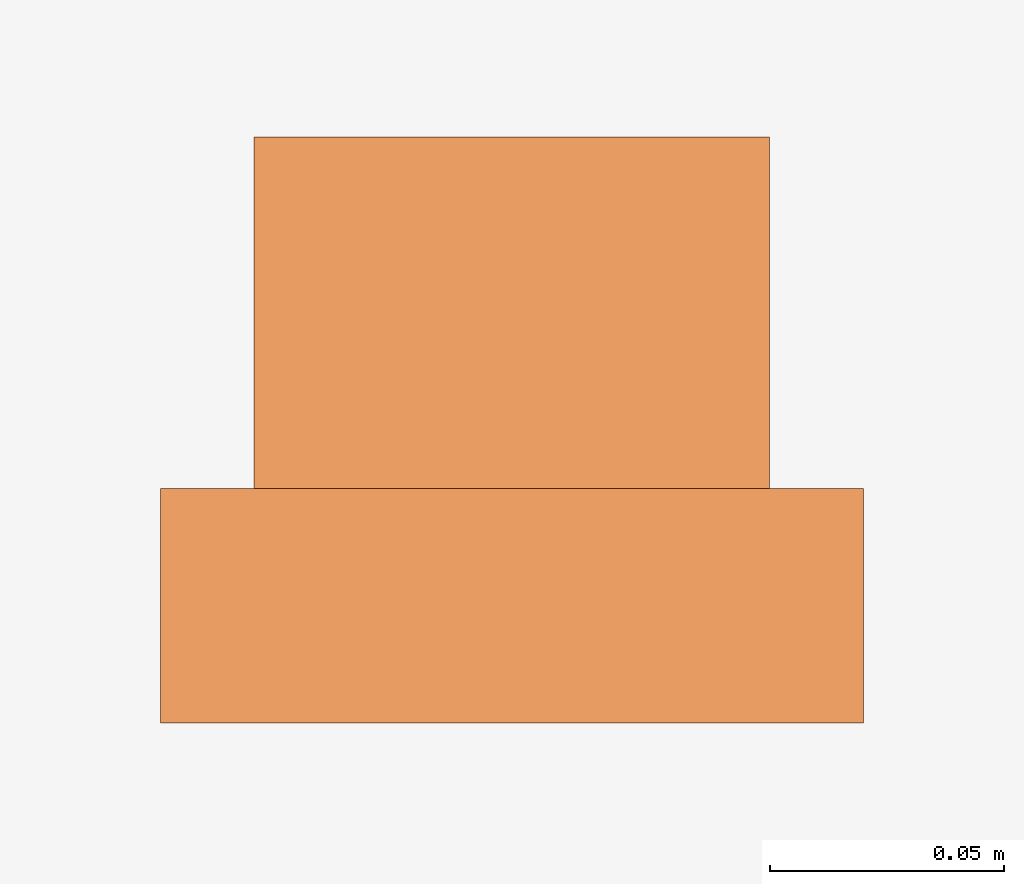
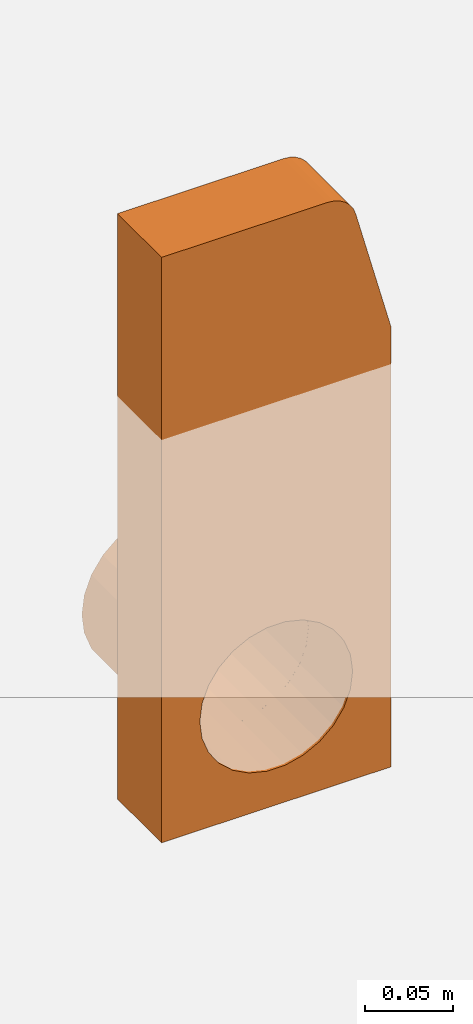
# One storey, part 2 of 2: 1 proxy.
"""IFC2X3 building model written with IfcOpenShell, lengths in millimetres."""

from ifc_helpers import new_model, entity, si_unit, converted_unit, direction, frame, frame_2d, origin, origin_2d_with_axis, place, context, subcontext, project, spatial, polyline, circle_curve, parameter, trimmed, segment, composite_curve, outline, extrude, source, transform, mapped, material, material_list, element, save


model = new_model("IFC2X3")

# Units and contexts
model_context = context("Model", 3, precision=1e-06, world=origin(), true_north=direction((2.0, 6.12303176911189e-17, 1.0)))
context_of_model = context(None, 3, precision=1e-06, world=origin(), true_north=direction((2.0, 6.12303176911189e-17, 1.0)))
body_context = subcontext(model_context, "Body", "Model", "MODEL_VIEW")
ifc_project = project(units=[si_unit("LENGTHUNIT", "METRE", prefix="MILLI"), si_unit("AREAUNIT", "SQUARE_METRE", prefix="MILLI"), si_unit("VOLUMEUNIT", "CUBIC_METRE", prefix="MILLI"), converted_unit("PLANEANGLEUNIT", "DEGREE", entity("IfcRatioMeasure", 0.0174532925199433), si_unit("PLANEANGLEUNIT", "RADIAN"), dimensions=[0, 0, 0, 0, 0, 0, 0]), si_unit("TIMEUNIT", "SECOND")], contexts=[model_context, context_of_model])

# Site, building, storey
site_placement = place(None, origin())
site = spatial("IfcSite", under=ifc_project, at=site_placement, Name="Default", CompositionType="ELEMENT")
building_placement = place(site_placement, origin())
building = spatial("IfcBuilding", under=site, at=building_placement, CompositionType="ELEMENT")
storey_placement = place(building_placement, origin())
storey = spatial("IfcBuildingStorey", under=building, at=storey_placement, Name="Level 1", CompositionType="ELEMENT", Elevation=0.0)

# Proxy
ifc_material_1 = material(Name="Orange")
ifc_material_2 = material(Name="ACO Polymer Concrete.")
ifc_material_list = material_list([ifc_material_1, ifc_material_2])
shared_shape = source(origin(), body_context, "Body", "SweptSolid", [
    extrude(outline(composite_curve([segment(trimmed(circle_curve(origin_2d_with_axis(), 55.0), [parameter(0.0)], [parameter(180.0)], True, "PARAMETER"), True, "CONTINUOUS"), segment(trimmed(circle_curve(origin_2d_with_axis(), 55.0), [parameter(180.0)], [parameter(360.0)], True, "PARAMETER"), True, "CONTINUOUS")], self_intersect=False), holes=[composite_curve([segment(trimmed(circle_curve(origin_2d_with_axis(), 49.9999999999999), [parameter(1.22133299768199e-12)], [parameter(180.0)], True, "PARAMETER"), False, "CONTINUOUS"), segment(trimmed(circle_curve(origin_2d_with_axis(), 50.0000000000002), [parameter(180.0)], [parameter(6.10666498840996e-13)], True, "PARAMETER"), False, "CONTINUOUS")], self_intersect=False)]), frame((-0.0204036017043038, 50.0, -204.96569753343), z_axis=(0.0, 1.0, 0.0), x_axis=(1.0, 0.0, 0.0)), (0.0, 0.0, 1.0), 75.0),
    extrude(outline(composite_curve([segment(polyline([(-54.0137396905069, -60.7326122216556), (250.986260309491, -60.7326122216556)]), True, "CONTINUOUS"), segment(polyline([(250.986260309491, -60.7326122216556), (250.986260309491, 89.2673877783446)]), True, "CONTINUOUS"), segment(polyline([(250.986260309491, 89.2673877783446), (-154.013739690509, 89.2673877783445)]), True, "CONTINUOUS"), segment(polyline([(-154.013739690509, 89.2673877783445), (-154.013739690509, -19.3584802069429)]), True, "CONTINUOUS"), segment(trimmed(circle_curve(frame_2d((-135.013739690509, -19.3584802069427), x_axis=(0.0, -1.0)), 19.0), [parameter(270.0)], [parameter(345.000000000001)], True, "PARAMETER"), True, "CONTINUOUS"), segment(polyline([(-139.931301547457, -37.7110709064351), (-54.0137396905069, -60.7326122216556)]), True, "CONTINUOUS")], self_intersect=False), holes=[composite_curve([segment(trimmed(circle_curve(frame_2d((175.951957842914, 14.2469841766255), x_axis=(0.0, 1.0)), 50.0000000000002), [parameter(359.999999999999)], [parameter(180.0)], True, "PARAMETER"), False, "CONTINUOUS"), segment(trimmed(circle_curve(frame_2d((175.951957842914, 14.2469841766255), x_axis=(0.0, 1.0)), 49.9999999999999), [parameter(180.0)], [parameter(359.999999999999)], True, "PARAMETER"), False, "CONTINUOUS")], self_intersect=False)]), frame((14.2673877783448, 0.0, -29.0137396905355), z_axis=(0.0, 1.0, 0.0), x_axis=(0.0, 0.0, -1.0)), (0.0, 0.0, 1.0), 50.0),
])
proxy_placement = place(storey_placement, frame((-14541.5994818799, -705.326112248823, 0.0)))
element("IfcBuildingElementProxy", 1, at=proxy_placement, inside=storey, material=ifc_material_list, Name="Civil-Drainage-Channel-ACO-KerbDrain-HB405:4238 - RH inlet/outlet end cap:4238 - RH inlet/outlet end cap", ObjectType="4238 - RH inlet/outlet end cap", CompositionType="ELEMENT", context=body_context, shape_type="MappedRepresentation", body=[
    mapped(shared_shape, transform((0.0, 0.0, 0.0), scale=1.0)),
])

save(model, "model.ifc")
